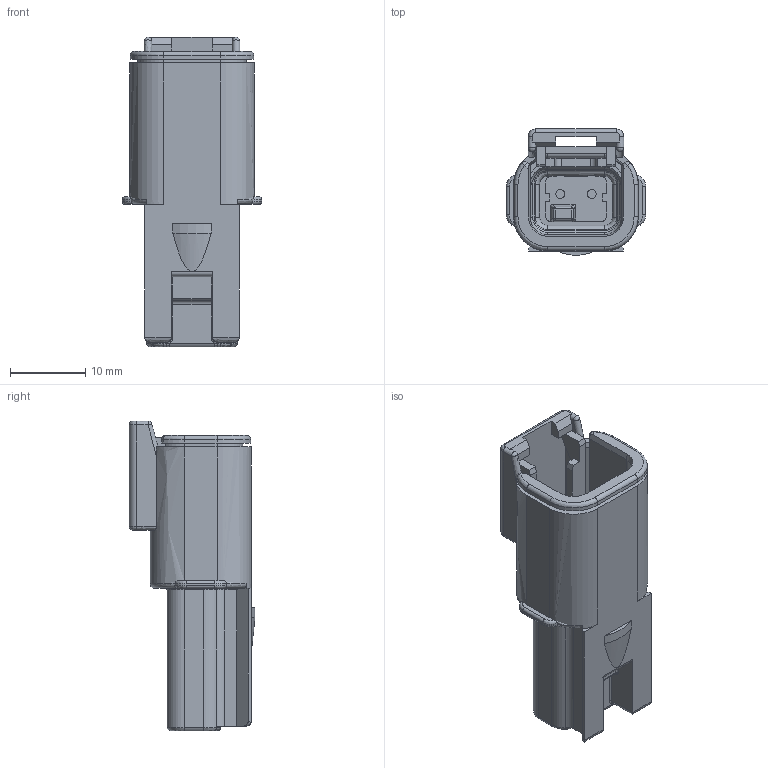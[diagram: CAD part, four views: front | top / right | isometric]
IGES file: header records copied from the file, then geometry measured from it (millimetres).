
Start section:  PTC IGES file: c-dtmh04-2pa-99-3d.igs
Global section: file name: c-dtmh04-2pa-99-3d.igs; native system: Pro/ENGINEER by Parametric Technology Corporation; preprocessor: 2011490; author: workeradm; organization: Unknown; units: millimetre
Bounding box: 18.52 x 16.72 x 41.15 mm (x, y, z)
Surface area: 4925.5 mm2 (no closed solid volume)
Topology: 0 solids, 0 shells, 448 faces, 2238 edges, 2238 vertices
Faces by surface type: revolution 251, bspline 197
